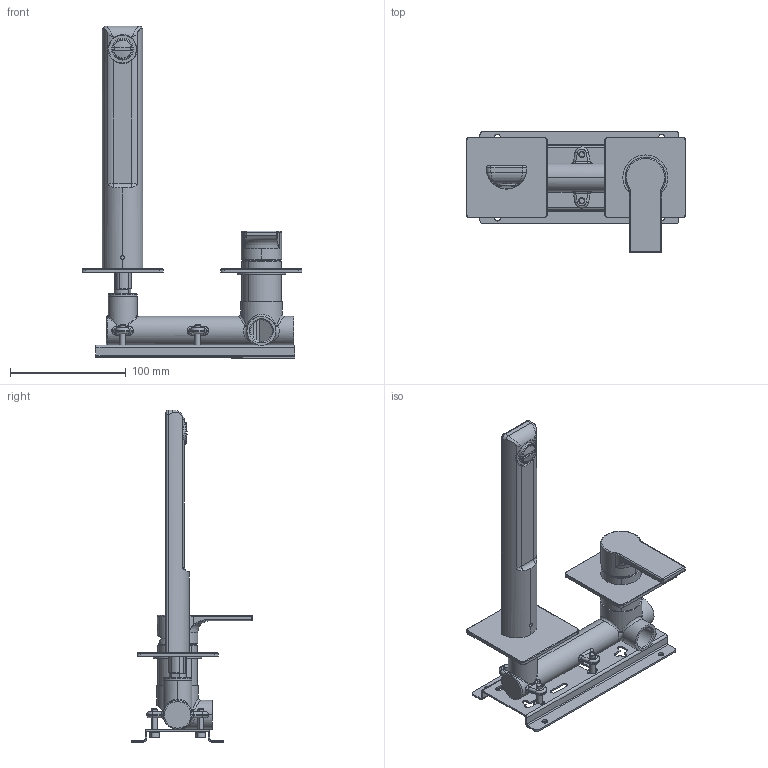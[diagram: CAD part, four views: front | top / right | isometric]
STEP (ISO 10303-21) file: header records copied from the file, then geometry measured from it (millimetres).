
FILE_DESCRIPTION (( 'STEP AP203' ), '1' );
FILE_NAME ('JGN83.STEP', '2024-02-06T10:59:03', ( '' ), ( '' ), 'SwSTEP 2.0', 'SolidWorks 2023', '' );
FILE_SCHEMA (( 'CONFIG_CONTROL_DESIGN' ));
Length unit declared in the file: millimetre
Products named in the file (24): C12.00.0051; C24.2660.00; C24.1955.00.1; C11.12.0020; C24.2580.00.0; C11.10.0061; GRANCO M4x4 ACCIAIO; C25.2348.00.1; C21.1428.00.0; C18.20.0007.01; C18.23.0004; JGN83; C47.00.0023.01; C12.00.0008; C24.2150.00.1; AERA24X1CS; C24.2658.00; C11.10.0019; GRANCO M5x6 ACCIAIO; ISN84; OR3459262NBR; C24.0120.00.1; C24.1560.00.0; C10.00.0022
Assembly tree (32 placements, depth 3):
  JGN83
    GRANCO M4x4 ACCIAIO
    OR3459262NBR
    GRANCO M5x6 ACCIAIO
    C47.00.0023.01
    C24.2150.00.1
    C11.10.0061  x2
    AERA24X1CS
    C24.2660.00
    C24.2658.00
    ISN84
      C24.1955.00.1
      C24.0120.00.1
      C21.1428.00.0
      C12.00.0051  x3
      C12.00.0008
      C18.23.0004
      C24.1560.00.0
      C24.2580.00.0
      C10.00.0022
      C25.2348.00.1
      C11.10.0019  x4
      C11.12.0020  x4
    C18.20.0007.01
Bounding box: 190 x 105 x 286.98 mm (x, y, z)
Volume: 255523.7 mm3; surface area: 161133.9 mm2
Topology: 33 solids, 33 shells, 1190 faces, 2802 edges, 1715 vertices
Faces by surface type: cylinder 459, plane 406, cone 136, torus 127, bspline 58, sphere 4
Entity records: 39061 total; most frequent: CARTESIAN_POINT 11507, DIRECTION 5404, ORIENTED_EDGE 5030, EDGE_CURVE 2515, AXIS2_PLACEMENT_3D 2142, VERTEX_POINT 1555, EDGE_LOOP 1200, VECTOR 1120
